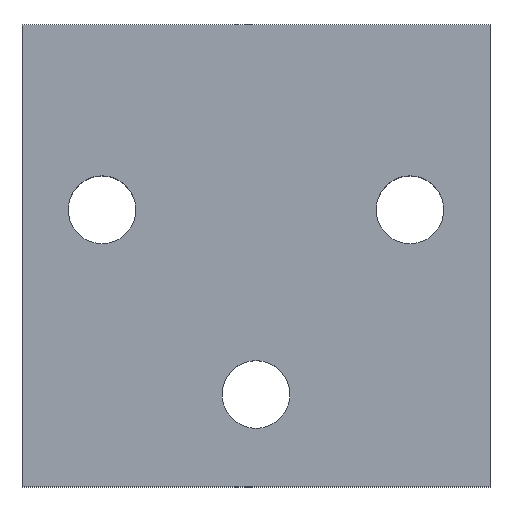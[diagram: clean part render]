
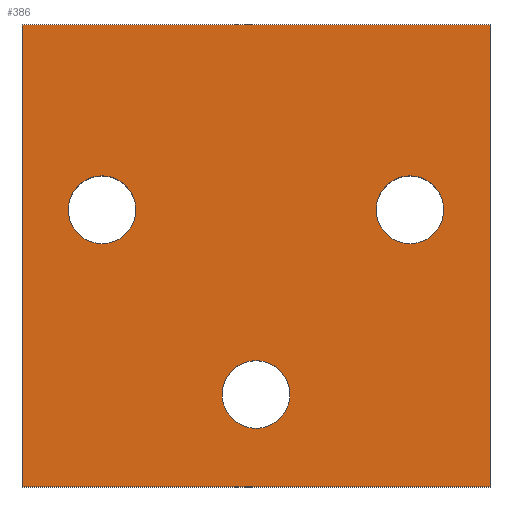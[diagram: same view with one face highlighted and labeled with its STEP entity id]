
A CAD part, top view. The second image highlights one B-rep face of the part: STEP entity #386.
In plain terms, the highlighted planar face has unit normal (0, 0, 1).
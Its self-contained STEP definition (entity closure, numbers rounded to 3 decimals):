
#91=VERTEX_POINT(' ',#92);
#92=CARTESIAN_POINT('',(-38.,75.,15.));
#93=VERTEX_POINT(' ',#94);
#94=CARTESIAN_POINT('',(38.,75.,15.));
#99=VERTEX_POINT(' ',#100);
#100=CARTESIAN_POINT('',(-38.,0.,15.));
#103=VERTEX_POINT(' ',#104);
#104=CARTESIAN_POINT('',(38.,0.,15.));
#117=VERTEX_POINT(' ',#118);
#118=CARTESIAN_POINT('',(-25.,50.5,15.));
#119=VERTEX_POINT(' ',#120);
#120=CARTESIAN_POINT('',(-25.,39.5,15.));
#121=VERTEX_POINT(' ',#122);
#122=CARTESIAN_POINT('',(25.,50.5,15.));
#123=VERTEX_POINT(' ',#124);
#124=CARTESIAN_POINT('',(25.,39.5,15.));
#125=VERTEX_POINT(' ',#126);
#126=CARTESIAN_POINT('',(0.,20.5,15.));
#127=VERTEX_POINT(' ',#128);
#128=CARTESIAN_POINT('',(0.,9.5,15.));
#134=LINE('',#135,#136);
#135=CARTESIAN_POINT('',(38.,75.,15.));
#136=VECTOR('',#137,1.);
#137=DIRECTION('',(-1.,0.,0.));
#138=EDGE_CURVE(' ',#93,#91,#134,.T.);
#154=LINE('',#155,#156);
#155=CARTESIAN_POINT('',(-38.,75.,15.));
#156=VECTOR('',#157,1.);
#157=DIRECTION('',(0.,-1.,0.));
#158=EDGE_CURVE(' ',#91,#99,#154,.T.);
#169=LINE('',#170,#171);
#170=CARTESIAN_POINT('',(-38.,0.,15.));
#171=VECTOR('',#172,1.);
#172=DIRECTION('',(1.,0.,0.));
#173=EDGE_CURVE(' ',#99,#103,#169,.T.);
#184=LINE('',#185,#186);
#185=CARTESIAN_POINT('',(38.,0.,15.));
#186=VECTOR('',#187,1.);
#187=DIRECTION('',(0.,1.,0.));
#188=EDGE_CURVE(' ',#103,#93,#184,.T.);
#225=CIRCLE('',#226,5.5);
#226=AXIS2_PLACEMENT_3D('',#227,#228,#229);
#227=CARTESIAN_POINT('',(-25.,45.,15.));
#228=DIRECTION('',(0.,0.,-1.));
#229=DIRECTION('',(-1.,0.,0.));
#230=EDGE_CURVE(' ',#117,#119,#225,.T.);
#231=CIRCLE('',#232,5.5);
#232=AXIS2_PLACEMENT_3D('',#233,#234,#235);
#233=CARTESIAN_POINT('',(-25.,45.,15.));
#234=DIRECTION('',(0.,0.,-1.));
#235=DIRECTION('',(1.,0.,0.));
#236=EDGE_CURVE(' ',#119,#117,#231,.T.);
#237=CIRCLE('',#238,5.5);
#238=AXIS2_PLACEMENT_3D('',#239,#240,#241);
#239=CARTESIAN_POINT('',(25.,45.,15.));
#240=DIRECTION('',(0.,0.,-1.));
#241=DIRECTION('',(-1.,0.,0.));
#242=EDGE_CURVE(' ',#121,#123,#237,.T.);
#243=CIRCLE('',#244,5.5);
#244=AXIS2_PLACEMENT_3D('',#245,#246,#247);
#245=CARTESIAN_POINT('',(25.,45.,15.));
#246=DIRECTION('',(0.,0.,-1.));
#247=DIRECTION('',(1.,0.,0.));
#248=EDGE_CURVE(' ',#123,#121,#243,.T.);
#249=CIRCLE('',#250,5.5);
#250=AXIS2_PLACEMENT_3D('',#251,#252,#253);
#251=CARTESIAN_POINT('',(0.,15.,15.));
#252=DIRECTION('',(0.,0.,-1.));
#253=DIRECTION('',(-1.,0.,0.));
#254=EDGE_CURVE(' ',#125,#127,#249,.T.);
#255=CIRCLE('',#256,5.5);
#256=AXIS2_PLACEMENT_3D('',#257,#258,#259);
#257=CARTESIAN_POINT('',(0.,15.,15.));
#258=DIRECTION('',(0.,0.,-1.));
#259=DIRECTION('',(1.,0.,0.));
#260=EDGE_CURVE(' ',#127,#125,#255,.T.);
#363=ORIENTED_EDGE('',*,*,#138,.T.);
#364=ORIENTED_EDGE('',*,*,#158,.T.);
#365=ORIENTED_EDGE('',*,*,#173,.T.);
#366=ORIENTED_EDGE('',*,*,#188,.T.);
#367=EDGE_LOOP('',(#363,#364,#365,#366));
#368=FACE_OUTER_BOUND('',#367,.T.);
#369=ORIENTED_EDGE('',*,*,#230,.T.);
#370=ORIENTED_EDGE('',*,*,#236,.T.);
#371=EDGE_LOOP('',(#369,#370));
#372=FACE_BOUND('',#371,.T.);
#373=ORIENTED_EDGE('',*,*,#242,.T.);
#374=ORIENTED_EDGE('',*,*,#248,.T.);
#375=EDGE_LOOP('',(#373,#374));
#376=FACE_BOUND('',#375,.T.);
#377=ORIENTED_EDGE('',*,*,#254,.T.);
#378=ORIENTED_EDGE('',*,*,#260,.T.);
#379=EDGE_LOOP('',(#377,#378));
#380=FACE_BOUND('',#379,.T.);
#381=PLANE('',#382);
#382=AXIS2_PLACEMENT_3D('',#383,#384,#385);
#383=CARTESIAN_POINT('',(38.,75.,15.));
#384=DIRECTION('',(0.,0.,1.));
#385=DIRECTION('',(1.,0.,0.));
#386=ADVANCED_FACE('',(#368,#372,#376,#380),#381,.T.);
